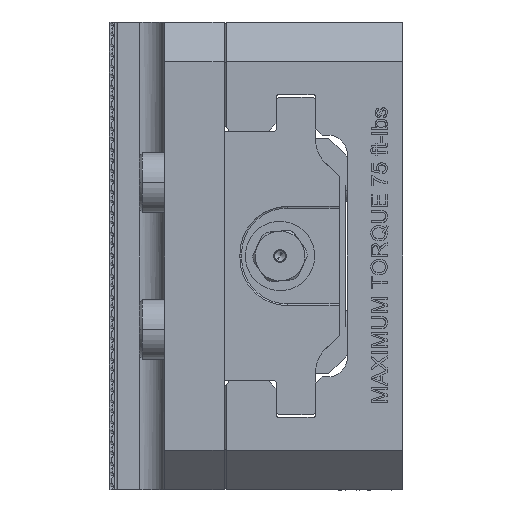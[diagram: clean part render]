
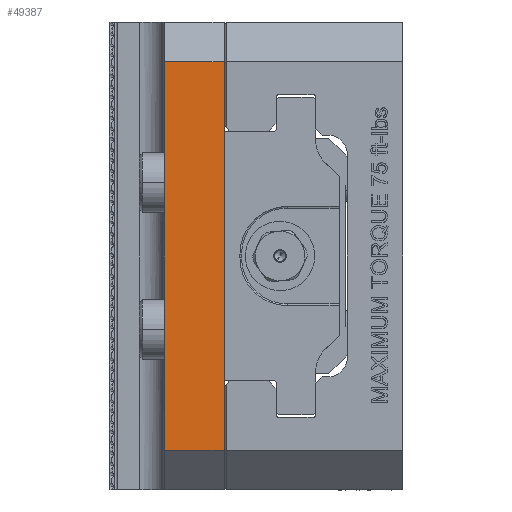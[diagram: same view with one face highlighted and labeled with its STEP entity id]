
A CAD part, left-side view. The second image highlights one B-rep face of the part: STEP entity #49387.
In plain terms, the highlighted planar face has unit normal (-1, 0, 0) as drawn and (1, 0, 0) by its records, which use the part's own axes.
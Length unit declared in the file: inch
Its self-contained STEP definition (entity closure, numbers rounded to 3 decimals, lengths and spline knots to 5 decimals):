
#847 = EDGE_CURVE ( 'NONE', #107522, #35976, #88520, .T. ) ;
#5394 = VERTEX_POINT ( 'NONE', #7615 ) ;
#7615 = CARTESIAN_POINT ( 'NONE',  ( 1.045, -0.725, -2.45 ) ) ;
#8278 = VECTOR ( 'NONE', #122623, 39.37008 ) ;
#9439 = DIRECTION ( 'NONE',  ( 0., 0., 1. ) ) ;
#15248 = ORIENTED_EDGE ( 'NONE', *, *, #44931, .T. ) ;
#15304 = EDGE_CURVE ( 'NONE', #123362, #5394, #107557, .T. ) ;
#15851 = FACE_OUTER_BOUND ( 'NONE', #70493, .T. ) ;
#20741 = VECTOR ( 'NONE', #24693, 39.37008 ) ;
#24693 = DIRECTION ( 'NONE',  ( 0., 0., -1. ) ) ;
#35593 = CARTESIAN_POINT ( 'NONE',  ( 1.045, 0.025, 2.45 ) ) ;
#35976 = VERTEX_POINT ( 'NONE', #50991 ) ;
#44931 = EDGE_CURVE ( 'NONE', #107522, #123362, #110388, .T. ) ;
#49207 = CARTESIAN_POINT ( 'NONE',  ( 1.045, 0.025, 2.95 ) ) ;
#49387 = ADVANCED_FACE ( 'NONE', ( #15851 ), #50483, .F. ) ;
#50483 = PLANE ( 'NONE',  #124841 ) ;
#50991 = CARTESIAN_POINT ( 'NONE',  ( 1.045, 0.025, -2.45 ) ) ;
#65131 = VECTOR ( 'NONE', #134128, 39.37008 ) ;
#70493 = EDGE_LOOP ( 'NONE', ( #122045, #123754, #101146, #15248 ) ) ;
#72040 = DIRECTION ( 'NONE',  ( -1., 0., 0. ) ) ;
#82188 = CARTESIAN_POINT ( 'NONE',  ( 1.045, -0.725, 2.95 ) ) ;
#88117 = CARTESIAN_POINT ( 'NONE',  ( 1.045, -0.725, 2.45 ) ) ;
#88520 = LINE ( 'NONE', #49207, #8278 ) ;
#92025 = CARTESIAN_POINT ( 'NONE',  ( 1.045, -0.725, -2.45 ) ) ;
#93155 = LINE ( 'NONE', #92025, #65131 ) ;
#96885 = CARTESIAN_POINT ( 'NONE',  ( 1.045, -0.725, 2.45 ) ) ;
#98575 = DIRECTION ( 'NONE',  ( 0., -1., 0. ) ) ;
#99412 = EDGE_CURVE ( 'NONE', #5394, #35976, #93155, .T. ) ;
#101146 = ORIENTED_EDGE ( 'NONE', *, *, #847, .F. ) ;
#107126 = VECTOR ( 'NONE', #98575, 39.37008 ) ;
#107522 = VERTEX_POINT ( 'NONE', #35593 ) ;
#107557 = LINE ( 'NONE', #108057, #20741 ) ;
#108057 = CARTESIAN_POINT ( 'NONE',  ( 1.045, -0.725, 2.95 ) ) ;
#110388 = LINE ( 'NONE', #88117, #107126 ) ;
#122045 = ORIENTED_EDGE ( 'NONE', *, *, #15304, .T. ) ;
#122623 = DIRECTION ( 'NONE',  ( 0., 0., -1. ) ) ;
#123362 = VERTEX_POINT ( 'NONE', #96885 ) ;
#123754 = ORIENTED_EDGE ( 'NONE', *, *, #99412, .T. ) ;
#124841 = AXIS2_PLACEMENT_3D ( 'NONE', #82188, #72040, #9439 ) ;
#134128 = DIRECTION ( 'NONE',  ( 0., 1., 0. ) ) ;
